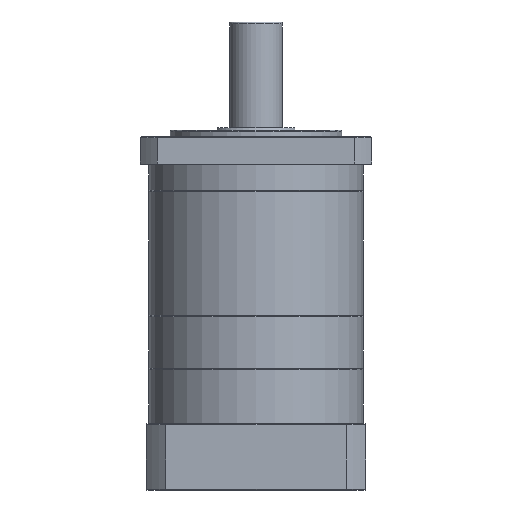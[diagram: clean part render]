
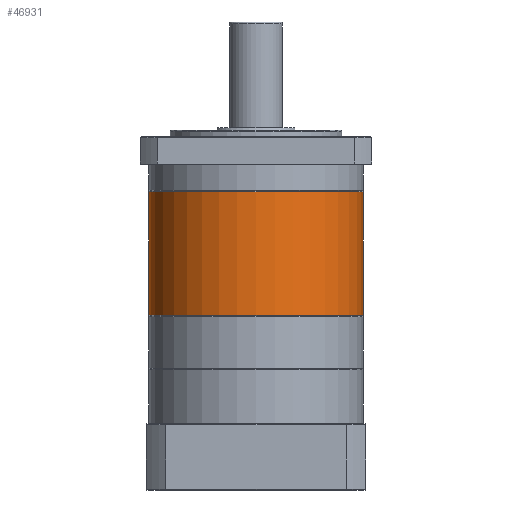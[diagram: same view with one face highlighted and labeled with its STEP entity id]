
A CAD part, front view. The second image highlights one B-rep face of the part: STEP entity #46931.
In plain terms, the highlighted cylindrical face has radius 81 mm (diameter 162 mm), a partial arc.
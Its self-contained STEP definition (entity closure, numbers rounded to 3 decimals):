
#427 = DIRECTION ( 'NONE',  ( 0., 0., 1. ) ) ;
#647 = LINE ( 'NONE', #72006, #33313 ) ;
#752 = VERTEX_POINT ( 'NONE', #49087 ) ;
#9688 = DIRECTION ( 'NONE',  ( 0., 0., 1. ) ) ;
#12263 = DIRECTION ( 'NONE',  ( 0., 0., -1. ) ) ;
#14147 = ORIENTED_EDGE ( 'NONE', *, *, #52003, .F. ) ;
#16785 = VECTOR ( 'NONE', #427, 1000. ) ;
#22429 = CYLINDRICAL_SURFACE ( 'NONE', #80848, 81. ) ;
#26730 = ORIENTED_EDGE ( 'NONE', *, *, #90921, .T. ) ;
#30634 = VERTEX_POINT ( 'NONE', #35123 ) ;
#33313 = VECTOR ( 'NONE', #56844, 1000. ) ;
#34198 = ORIENTED_EDGE ( 'NONE', *, *, #84231, .T. ) ;
#34832 = CARTESIAN_POINT ( 'NONE',  ( 186.54, 60.524, 49.155 ) ) ;
#35123 = CARTESIAN_POINT ( 'NONE',  ( 105.54, 60.524, 142.655 ) ) ;
#35500 = EDGE_CURVE ( 'NONE', #90156, #752, #49707, .T. ) ;
#35882 = CIRCLE ( 'NONE', #80058, 81. ) ;
#43646 = CARTESIAN_POINT ( 'NONE',  ( 105.54, 60.524, 49.155 ) ) ;
#46931 = ADVANCED_FACE ( 'NONE', ( #59860 ), #22429, .T. ) ;
#49087 = CARTESIAN_POINT ( 'NONE',  ( 267.54, 60.524, 49.155 ) ) ;
#49707 = CIRCLE ( 'NONE', #60466, 81. ) ;
#52003 = EDGE_CURVE ( 'NONE', #90156, #30634, #647, .T. ) ;
#56004 = CARTESIAN_POINT ( 'NONE',  ( 186.54, 60.524, 48.655 ) ) ;
#56844 = DIRECTION ( 'NONE',  ( 0., 0., 1. ) ) ;
#56861 = CARTESIAN_POINT ( 'NONE',  ( 267.54, 60.524, 142.655 ) ) ;
#59860 = FACE_OUTER_BOUND ( 'NONE', #87313, .T. ) ;
#60466 = AXIS2_PLACEMENT_3D ( 'NONE', #34832, #89561, #81425 ) ;
#63896 = LINE ( 'NONE', #93044, #16785 ) ;
#65935 = CARTESIAN_POINT ( 'NONE',  ( 186.54, 60.524, 142.655 ) ) ;
#66271 = DIRECTION ( 'NONE',  ( 1., 0., 0. ) ) ;
#69983 = ORIENTED_EDGE ( 'NONE', *, *, #35500, .T. ) ;
#72006 = CARTESIAN_POINT ( 'NONE',  ( 105.54, 60.524, 48.655 ) ) ;
#80058 = AXIS2_PLACEMENT_3D ( 'NONE', #65935, #12263, #66271 ) ;
#80590 = DIRECTION ( 'NONE',  ( 1., 0., 0. ) ) ;
#80848 = AXIS2_PLACEMENT_3D ( 'NONE', #56004, #9688, #80590 ) ;
#81425 = DIRECTION ( 'NONE',  ( 1., 0., 0. ) ) ;
#82296 = VERTEX_POINT ( 'NONE', #56861 ) ;
#84231 = EDGE_CURVE ( 'NONE', #82296, #30634, #35882, .T. ) ;
#87313 = EDGE_LOOP ( 'NONE', ( #14147, #69983, #26730, #34198 ) ) ;
#89561 = DIRECTION ( 'NONE',  ( 0., 0., 1. ) ) ;
#90156 = VERTEX_POINT ( 'NONE', #43646 ) ;
#90921 = EDGE_CURVE ( 'NONE', #752, #82296, #63896, .T. ) ;
#93044 = CARTESIAN_POINT ( 'NONE',  ( 267.54, 60.524, 48.655 ) ) ;
